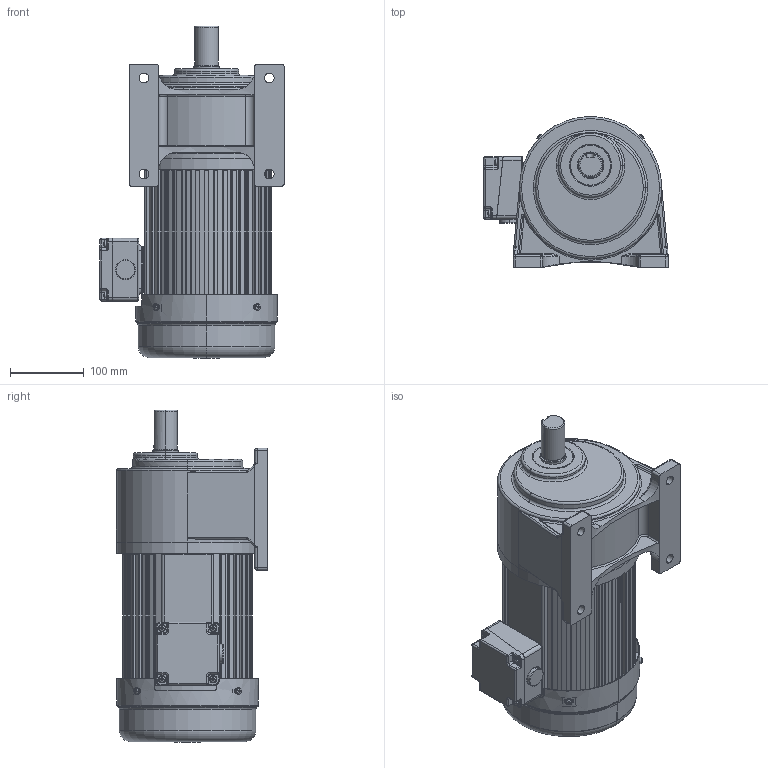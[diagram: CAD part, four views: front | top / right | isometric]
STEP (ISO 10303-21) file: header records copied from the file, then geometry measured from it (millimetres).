
FILE_DESCRIPTION (( 'STEP AP203' ), '1' );
FILE_NAME ('32轴卧式1500W.STEP', '2021-05-07T01:00:33', ( '微软用户' ), ( '微软中国' ), 'SwSTEP 2.0', 'SolidWorks 2013', '' );
FILE_SCHEMA (( 'CONFIG_CONTROL_DESIGN' ));
Length unit declared in the file: millimetre
Products named in the file (1): 32粣拏宒1500W
Bounding box: 249.5 x 204.78 x 450 mm (x, y, z)
Volume: 5482631.3 mm3; surface area: 870091.6 mm2
Topology: 27 solids, 28 shells, 3426 faces, 8312 edges, 4805 vertices
Faces by surface type: cylinder 1295, plane 858, torus 437, cone 330, bspline 272, sphere 234
Entity records: 106942 total; most frequent: CARTESIAN_POINT 28361, DIRECTION 17496, ORIENTED_EDGE 15916, EDGE_CURVE 7958, AXIS2_PLACEMENT_3D 7023, VERTEX_POINT 4679, CIRCLE 3868, EDGE_LOOP 3771
